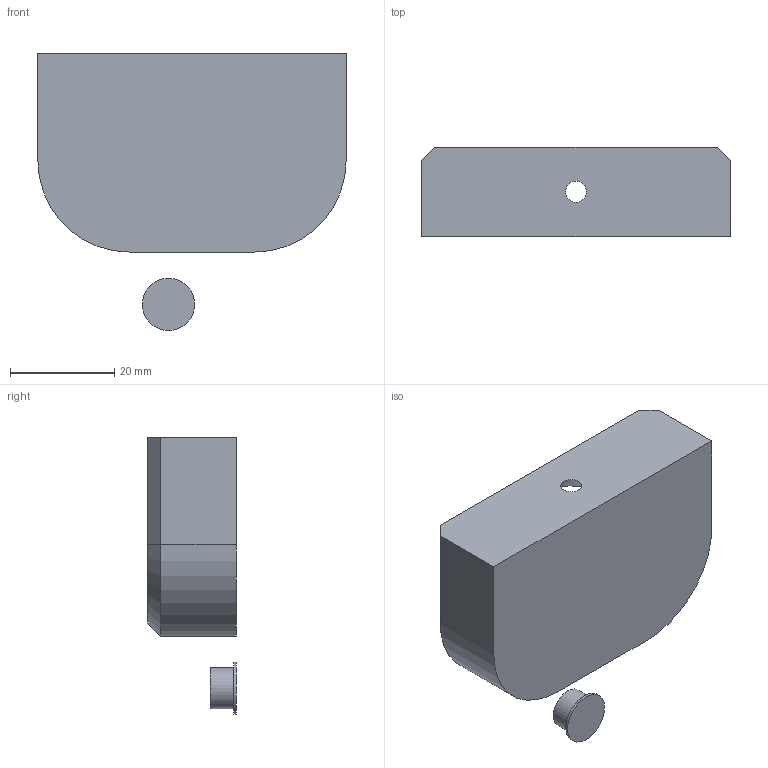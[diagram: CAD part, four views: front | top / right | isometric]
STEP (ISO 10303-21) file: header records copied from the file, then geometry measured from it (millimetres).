
FILE_DESCRIPTION(/* description */ (''),/* implementation_level */ '2;1');
FILE_NAME(/* name */ '//qnap/Wichtige Daten usw/Marco/CR-10/Vape_Box_by_P.Rox/files/18650 Battery Storage slide top box wall mount.step',/* time_stamp */ '2018-04-15T22:51:03+02:00',/* author */ (''),/* organization */ (''),/* preprocessor_version */ 'ST-DEVELOPER v16.13',/* originating_system */ 'Autodesk Translation Framework v6.5.0.72',/* authorisation */ '');
FILE_SCHEMA (('AUTOMOTIVE_DESIGN { 1 0 10303 214 3 1 1 }'));
Length unit declared in the file: millimetre
Products named in the file (1): (Nicht gespeichert)
Bounding box: 59 x 17 x 53 mm (x, y, z)
Volume: 16323.8 mm3; surface area: 9257.6 mm2
Topology: 2 solids, 2 shells, 38 faces, 87 edges, 54 vertices
Faces by surface type: plane 22, cylinder 9, cone 7
Full cylindrical faces by diameter (mm): 7.8 x1, 8 x1, 10 x1
Entity records: 1101 total; most frequent: DIRECTION 191, CARTESIAN_POINT 184, ORIENTED_EDGE 174, EDGE_CURVE 87, AXIS2_PLACEMENT_3D 67, LINE 57, VECTOR 57, VERTEX_POINT 54
